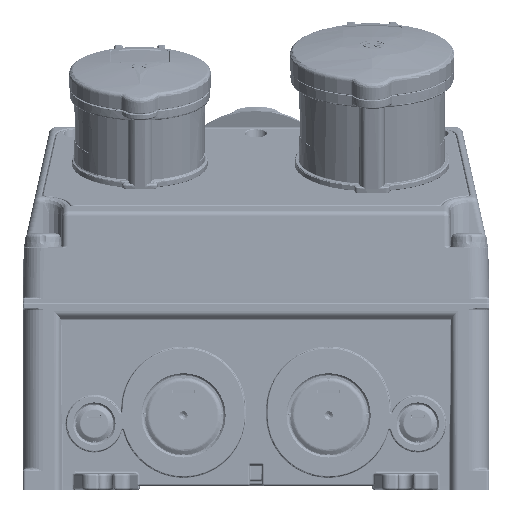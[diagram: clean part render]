
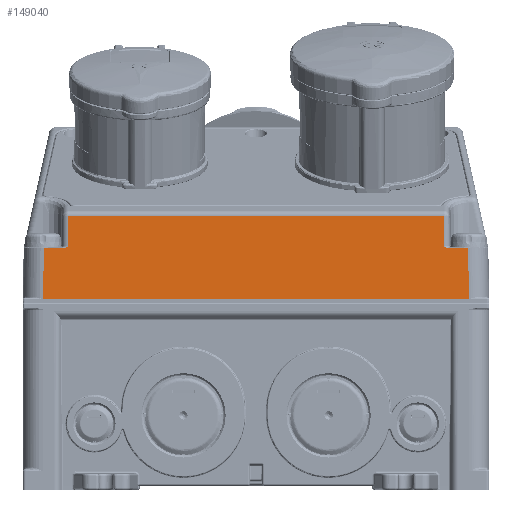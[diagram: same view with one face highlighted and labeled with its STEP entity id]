
A CAD part, front view. The second image highlights one B-rep face of the part: STEP entity #149040.
In plain terms, the highlighted planar face has unit normal (0, -1, 0.018).
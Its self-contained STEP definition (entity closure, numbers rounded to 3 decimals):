
#1261=CARTESIAN_POINT('',(215.25,0.001,92.059));
#1343=DIRECTION('',(-1.,0.,0.));
#1344=VECTOR('',#1343,8.749);
#1345=CARTESIAN_POINT('',(223.999,0.001,92.059));
#1346=LINE('46502',#1345,#1344);
#7997=DIRECTION('',(-1.,0.,0.));
#7998=VECTOR('',#7997,9.246);
#7999=CARTESIAN_POINT('',(214.824,0.428,116.509));
#8000=LINE('47232',#7999,#7998);
#8178=CARTESIAN_POINT('',(203.146,0.445,117.491));
#8191=CARTESIAN_POINT('',(205.578,0.428,116.509));
#8192=CARTESIAN_POINT('',(205.518,0.428,116.509));
#8193=CARTESIAN_POINT('',(205.395,0.428,116.514));
#8194=CARTESIAN_POINT('',(205.199,0.428,116.538));
#8195=CARTESIAN_POINT('',(204.983,0.429,116.583));
#8196=CARTESIAN_POINT('',(204.746,0.43,116.651));
#8197=CARTESIAN_POINT('',(204.483,0.432,116.748));
#8198=CARTESIAN_POINT('',(204.194,0.434,116.878));
#8199=CARTESIAN_POINT('',(203.877,0.437,117.045));
#8200=CARTESIAN_POINT('',(203.532,0.441,117.248));
#8201=CARTESIAN_POINT('',(203.279,0.443,117.407));
#8202=CARTESIAN_POINT('',(203.146,0.445,117.491));
#8207=DIRECTION('',(0.017,0.017,1.));
#8208=VECTOR('',#8207,24.457);
#8209=CARTESIAN_POINT('',(9.75,0.001,92.059));
#8210=LINE('47256',#8209,#8208);
#8214=DIRECTION('',(0.009,0.017,1.));
#8215=VECTOR('',#8214,14.45);
#8216=CARTESIAN_POINT('',(21.854,0.445,117.491));
#8217=LINE('47259',#8216,#8215);
#8221=DIRECTION('',(0.009,-0.017,-1.));
#8222=VECTOR('',#8221,14.45);
#8223=CARTESIAN_POINT('',(203.02,0.697,131.938));
#8224=LINE('47261',#8223,#8222);
#8228=DIRECTION('',(0.017,-0.017,-1.));
#8229=VECTOR('',#8228,24.457);
#8230=CARTESIAN_POINT('',(214.824,0.428,116.509));
#8231=LINE('46495',#8230,#8229);
#8235=DIRECTION('',(0.016,-0.017,-1.));
#8236=VECTOR('',#8235,0.059);
#8237=CARTESIAN_POINT('',(223.999,0.001,92.059));
#8238=LINE('47262',#8237,#8236);
#8242=DIRECTION('',(0.016,0.017,1.));
#8243=VECTOR('',#8242,0.059);
#8244=CARTESIAN_POINT('',(1.,0.,
92.));
#8245=LINE('47264',#8244,#8243);
#8262=DIRECTION('',(-1.,0.,0.));
#8263=VECTOR('',#8262,8.749);
#8264=CARTESIAN_POINT('',(9.75,0.001,92.059));
#8265=LINE('47255',#8264,#8263);
#100490=DIRECTION('',(1.,0.,0.));
#100491=VECTOR('',#100490,223.);
#100492=CARTESIAN_POINT('',(1.,0.,
92.));
#100493=LINE('47263',#100492,#100491);
#102383=CARTESIAN_POINT('',(21.854,0.445,
117.491));
#102384=CARTESIAN_POINT('',(21.721,0.443,
117.407));
#102385=CARTESIAN_POINT('',(21.469,0.441,
117.248));
#102386=CARTESIAN_POINT('',(21.123,0.437,
117.045));
#102387=CARTESIAN_POINT('',(20.807,0.434,
116.879));
#102388=CARTESIAN_POINT('',(20.518,0.432,
116.748));
#102389=CARTESIAN_POINT('',(20.255,0.43,
116.651));
#102390=CARTESIAN_POINT('',(20.017,0.429,
116.583));
#102391=CARTESIAN_POINT('',(19.802,0.428,
116.538));
#102392=CARTESIAN_POINT('',(19.605,0.428,
116.514));
#102393=CARTESIAN_POINT('',(19.482,0.428,
116.509));
#102394=CARTESIAN_POINT('',(19.422,0.428,
116.509));
#102407=DIRECTION('',(-1.,0.,0.));
#102408=VECTOR('',#102407,9.246);
#102409=CARTESIAN_POINT('',(19.422,0.428,
116.509));
#102410=LINE('47257',#102409,#102408);
#110365=DIRECTION('',(-1.,0.,0.));
#110366=VECTOR('',#110365,181.04);
#110367=CARTESIAN_POINT('',(203.02,0.697,
131.938));
#110368=LINE('47260',#110367,#110366);
#122861=VERTEX_POINT('',#1261);
#122862=CARTESIAN_POINT('',(214.824,0.428,
116.509));
#122863=VERTEX_POINT('',#122862);
#122868=CARTESIAN_POINT('',(223.999,0.001,
92.059));
#122869=VERTEX_POINT('',#122868);
#123601=CARTESIAN_POINT('',(205.578,0.428,
116.509));
#123602=VERTEX_POINT('',#123601);
#123622=VERTEX_POINT('',#8178);
#123623=CARTESIAN_POINT('',(9.75,0.001,
92.059));
#123624=CARTESIAN_POINT('',(1.001,0.001,
92.059));
#123625=VERTEX_POINT('',#123623);
#123626=VERTEX_POINT('',#123624);
#123627=CARTESIAN_POINT('',(10.176,0.428,
116.509));
#123628=VERTEX_POINT('',#123627);
#123629=CARTESIAN_POINT('',(19.422,0.428,
116.509));
#123630=VERTEX_POINT('',#123629);
#123631=VERTEX_POINT('',#102383);
#123632=CARTESIAN_POINT('',(21.98,0.697,
131.938));
#123633=VERTEX_POINT('',#123632);
#123634=CARTESIAN_POINT('',(203.02,0.697,
131.938));
#123635=VERTEX_POINT('',#123634);
#123636=CARTESIAN_POINT('',(224.,0.,
92.));
#123637=VERTEX_POINT('',#123636);
#123638=CARTESIAN_POINT('',(1.,0.,
92.));
#123639=VERTEX_POINT('',#123638);
#149009=CARTESIAN_POINT('',(0.,0.733,134.));
#149010=DIRECTION('',(0.,-1.,0.017));
#149011=DIRECTION('',(0.,-0.017,-1.));
#149012=AXIS2_PLACEMENT_3D('',#149009,#149010,#149011);
#149013=PLANE('60318',#149012);
#149015=ORIENTED_EDGE('47255',*,*,#149014,.F.);
#149017=ORIENTED_EDGE('47256',*,*,#149016,.T.);
#149019=ORIENTED_EDGE('47257',*,*,#149018,.F.);
#149021=ORIENTED_EDGE('47258',*,*,#149020,.F.);
#149023=ORIENTED_EDGE('47259',*,*,#149022,.T.);
#149025=ORIENTED_EDGE('47260',*,*,#149024,.F.);
#149027=ORIENTED_EDGE('47261',*,*,#149026,.T.);
#149028=ORIENTED_EDGE('47254',*,*,#148992,.F.);
#149029=ORIENTED_EDGE('47232',*,*,#148710,.F.);
#149030=ORIENTED_EDGE('46495',*,*,#139003,.T.);
#149031=ORIENTED_EDGE('46502',*,*,#139096,.F.);
#149033=ORIENTED_EDGE('47262',*,*,#149032,.T.);
#149035=ORIENTED_EDGE('47263',*,*,#149034,.F.);
#149037=ORIENTED_EDGE('47264',*,*,#149036,.T.);
#149038=EDGE_LOOP('60318',(#149015,#149017,#149019,#149021,#149023,#149025,
#149027,#149028,#149029,#149030,#149031,#149033,#149035,#149037));
#149039=FACE_OUTER_BOUND('60318',#149038,.F.);
#8203=B_SPLINE_CURVE_WITH_KNOTS('47254',3,(#8191,#8192,#8193,#8194,#8195,#8196,
#8197,#8198,#8199,#8200,#8201,#8202),.UNSPECIFIED.,.F.,.F.,(4,1,1,1,1,1,1,1,1,
4),(0.,0.111,0.222,0.333,
0.444,0.556,0.667,0.778,
0.889,1.),.UNSPECIFIED.);
#102395=B_SPLINE_CURVE_WITH_KNOTS('47258',3,(#102383,#102384,#102385,#102386,
#102387,#102388,#102389,#102390,#102391,#102392,#102393,#102394),.UNSPECIFIED.,
.F.,.F.,(4,1,1,1,1,1,1,1,1,4),(0.,0.111,0.222,
0.333,0.444,0.556,0.667,
0.778,0.889,1.),.UNSPECIFIED.);
#139003=EDGE_CURVE('46495',#122863,#122861,#8231,.T.);
#139096=EDGE_CURVE('46502',#122869,#122861,#1346,.T.);
#148710=EDGE_CURVE('47232',#122863,#123602,#8000,.T.);
#148992=EDGE_CURVE('47254',#123602,#123622,#8203,.T.);
#149014=EDGE_CURVE('47255',#123625,#123626,#8265,.T.);
#149016=EDGE_CURVE('47256',#123625,#123628,#8210,.T.);
#149018=EDGE_CURVE('47257',#123630,#123628,#102410,.T.);
#149020=EDGE_CURVE('47258',#123631,#123630,#102395,.T.);
#149022=EDGE_CURVE('47259',#123631,#123633,#8217,.T.);
#149024=EDGE_CURVE('47260',#123635,#123633,#110368,.T.);
#149026=EDGE_CURVE('47261',#123635,#123622,#8224,.T.);
#149032=EDGE_CURVE('47262',#122869,#123637,#8238,.T.);
#149034=EDGE_CURVE('47263',#123639,#123637,#100493,.T.);
#149036=EDGE_CURVE('47264',#123639,#123626,#8245,.T.);
#149040=ADVANCED_FACE('60318',(#149039),#149013,.T.);
